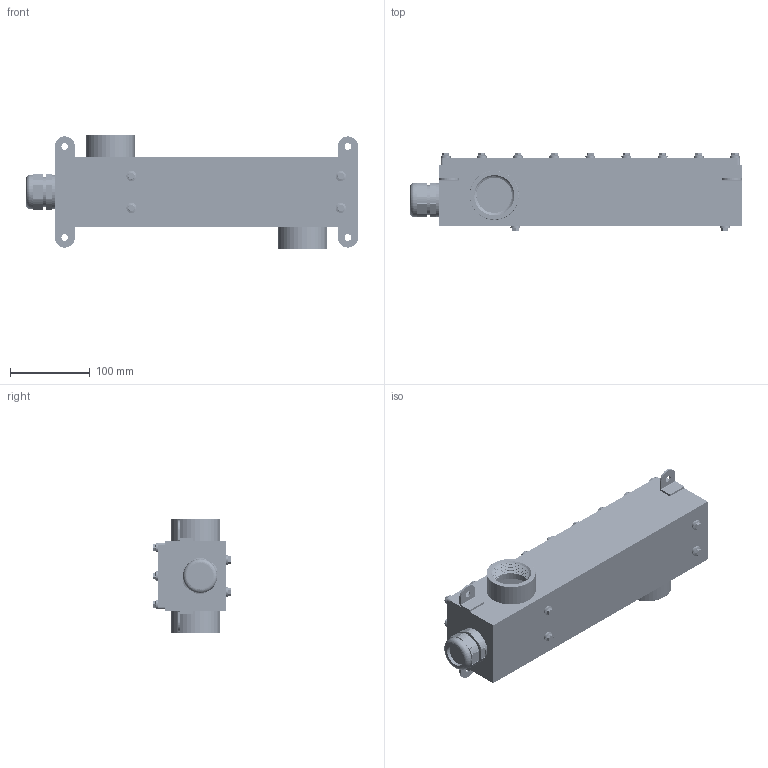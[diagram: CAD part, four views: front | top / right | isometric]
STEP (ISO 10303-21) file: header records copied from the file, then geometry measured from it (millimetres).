
FILE_DESCRIPTION (( 'STEP AP203' ), '1' );
FILE_NAME ('LL-EN.STEP', '2021-11-09T15:04:09', ( '' ), ( '' ), 'SwSTEP 2.0', 'SolidWorks 2021', '' );
FILE_SCHEMA (( 'CONFIG_CONTROL_DESIGN' ));
Length unit declared in the file: inch
Products named in the file (17): 800005; 200932; 4452K216_4452K216; 800004; TJS050023X; 400225; 200931; PG29-S01; PG29-N01; LL-EN; 400102; 500222; PG29-01-01-01-01_.060 GAP; SP-M5-2; PG29-B01; 93635A160_DEFAULT; PG29-I01
Assembly tree (61 placements, depth 3):
  LL-EN
    200932
      200931
      SP-M5-2  x20
      4452K216_4452K216  x2
    400225
    500222
    PG29-01-01-01-01_.060 GAP
      PG29-B01
      PG29-I01
      PG29-S01
      PG29-N01
    800004  x20
      800005
      400102
    93635A160_DEFAULT  x4
    TJS050023X  x4
Bounding box: 417 x 98.23 x 142.75 mm (x, y, z)
Volume: 571850.6 mm3; surface area: 404757.3 mm2
Topology: 82 solids, 82 shells, 3659 faces, 9501 edges, 6229 vertices
Faces by surface type: cylinder 1629, plane 1531, cone 432, bspline 58, torus 9
Entity records: 32847 total; most frequent: CARTESIAN_POINT 13705, ORIENTED_EDGE 3378, DIRECTION 3321, EDGE_CURVE 1689, AXIS2_PLACEMENT_3D 1291, VERTEX_POINT 1107, EDGE_LOOP 822, LINE 739
